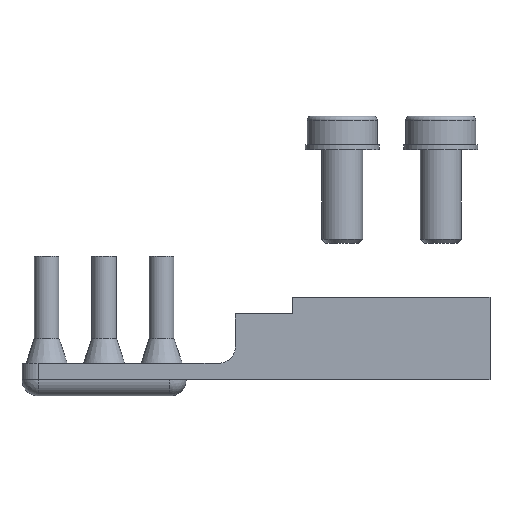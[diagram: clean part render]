
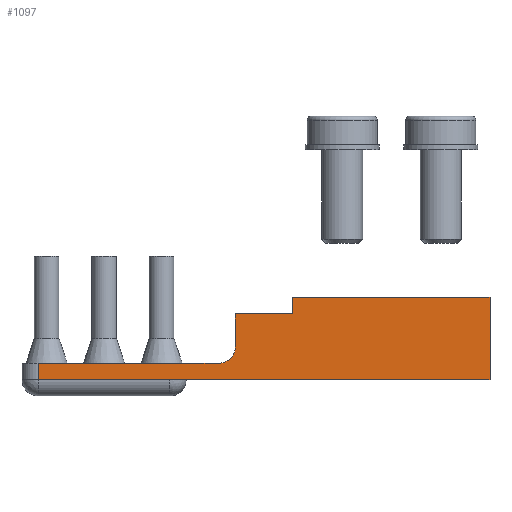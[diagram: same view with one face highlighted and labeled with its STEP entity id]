
A CAD part, left-side view. The second image highlights one B-rep face of the part: STEP entity #1097.
In plain terms, the highlighted planar face has unit normal (-1, 0, 0).
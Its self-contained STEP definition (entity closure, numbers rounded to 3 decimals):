
#178=CARTESIAN_POINT('',(0.0,1.0,10.0));
#179=VERTEX_POINT('',#178);
#186=CARTESIAN_POINT('',(0.0,1.0,0.0));
#187=VERTEX_POINT('',#186);
#188=CARTESIAN_POINT('',(0.,1.0,0.0));
#189=DIRECTION('',(0.0,0.0,1.0));
#190=VECTOR('',#189,10.0);
#191=LINE('',#188,#190);
#192=EDGE_CURVE('',#187,#179,#191,.T.);
#442=CARTESIAN_POINT('',(0.,56.,0.0));
#443=VERTEX_POINT('',#442);
#444=CARTESIAN_POINT('',(0.,56.,0.0));
#445=DIRECTION('',(0.0,-1.0,0.0));
#446=VECTOR('',#445,55.);
#447=LINE('',#444,#446);
#448=EDGE_CURVE('',#443,#187,#447,.T.);
#566=CARTESIAN_POINT('',(0.,34.,2.));
#567=VERTEX_POINT('',#566);
#568=CARTESIAN_POINT('',(0.,32.,4.));
#569=VERTEX_POINT('',#568);
#570=CARTESIAN_POINT('',(0.0,34.,4.));
#571=DIRECTION('',(-1.0,0.0,0.0));
#572=DIRECTION('',(0.0,-0.707,-0.707));
#573=AXIS2_PLACEMENT_3D('',#570,#571,#572);
#574=CIRCLE('',#573,2.0);
#575=EDGE_CURVE('',#567,#569,#574,.T.);
#599=CARTESIAN_POINT('',(0.,32.,8.));
#600=VERTEX_POINT('',#599);
#601=CARTESIAN_POINT('',(0.,32.,8.));
#602=DIRECTION('',(0.0,0.0,-1.0));
#603=VECTOR('',#602,4.0);
#604=LINE('',#601,#603);
#605=EDGE_CURVE('',#600,#569,#604,.T.);
#742=CARTESIAN_POINT('',(0.,56.,2.));
#743=VERTEX_POINT('',#742);
#760=CARTESIAN_POINT('',(0.,56.,0.0));
#761=DIRECTION('',(0.0,0.0,1.0));
#762=VECTOR('',#761,2.);
#763=LINE('',#760,#762);
#764=EDGE_CURVE('',#443,#743,#763,.T.);
#809=CARTESIAN_POINT('',(0.,34.,2.));
#810=DIRECTION('',(0.0,1.0,0.0));
#811=VECTOR('',#810,22.0);
#812=LINE('',#809,#811);
#813=EDGE_CURVE('',#567,#743,#812,.T.);
#996=CARTESIAN_POINT('',(0.,25.0,10.0));
#997=VERTEX_POINT('',#996);
#1004=CARTESIAN_POINT('',(0.,1.,10.0));
#1005=DIRECTION('',(0.0,1.0,0.0));
#1006=VECTOR('',#1005,24.);
#1007=LINE('',#1004,#1006);
#1008=EDGE_CURVE('',#179,#997,#1007,.T.);
#1036=CARTESIAN_POINT('',(0.,25.0,8.));
#1037=VERTEX_POINT('',#1036);
#1044=CARTESIAN_POINT('',(0.,25.0,10.0));
#1045=DIRECTION('',(0.0,0.0,-1.0));
#1046=VECTOR('',#1045,2.);
#1047=LINE('',#1044,#1046);
#1048=EDGE_CURVE('',#997,#1037,#1047,.T.);
#1064=CARTESIAN_POINT('',(0.,25.0,8.));
#1065=DIRECTION('',(0.0,1.0,0.0));
#1066=VECTOR('',#1065,7.);
#1067=LINE('',#1064,#1066);
#1068=EDGE_CURVE('',#1037,#600,#1067,.T.);
#1081=CARTESIAN_POINT('',(0.0,0.0,0.0));
#1082=DIRECTION('',(-1.0,0.0,0.0));
#1083=DIRECTION('',(0.0,0.0,1.0));
#1084=AXIS2_PLACEMENT_3D('',#1081,#1082,#1083);
#1085=PLANE('',#1084);
#1086=ORIENTED_EDGE('',*,*,#192,.T.);
#1087=ORIENTED_EDGE('',*,*,#1008,.T.);
#1088=ORIENTED_EDGE('',*,*,#1048,.T.);
#1089=ORIENTED_EDGE('',*,*,#1068,.T.);
#1090=ORIENTED_EDGE('',*,*,#605,.T.);
#1091=ORIENTED_EDGE('',*,*,#575,.F.);
#1092=ORIENTED_EDGE('',*,*,#813,.T.);
#1093=ORIENTED_EDGE('',*,*,#764,.F.);
#1094=ORIENTED_EDGE('',*,*,#448,.T.);
#1095=EDGE_LOOP('',(#1086,#1087,#1088,#1089,#1090,#1091,#1092,#1093,#1094));
#1096=FACE_OUTER_BOUND('',#1095,.T.);
#1097=ADVANCED_FACE('',(#1096),#1085,.T.);
